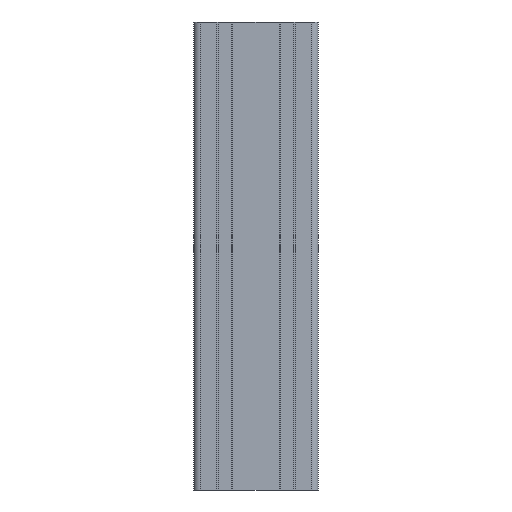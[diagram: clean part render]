
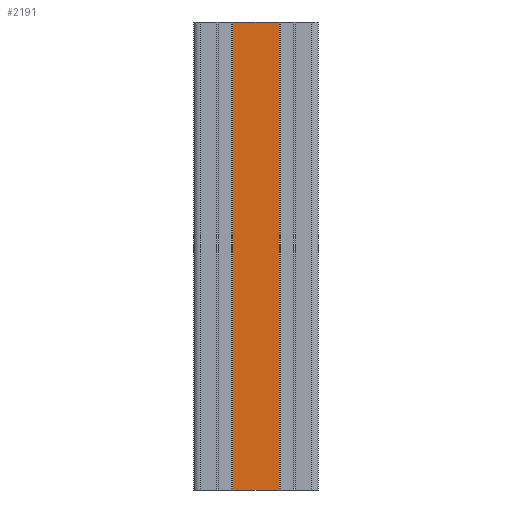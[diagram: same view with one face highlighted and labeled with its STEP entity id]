
A CAD part, front view. The second image highlights one B-rep face of the part: STEP entity #2191.
In plain terms, the highlighted planar face has unit normal (0, -1, 0).
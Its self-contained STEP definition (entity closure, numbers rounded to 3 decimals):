
#46 = CARTESIAN_POINT ( 'NONE',  ( -14.85, -20., 150. ) ) ;
#156 = CARTESIAN_POINT ( 'NONE',  ( -14.85, -20., 150. ) ) ;
#241 = EDGE_CURVE ( 'NONE', #6490, #1092, #1419, .T. ) ;
#333 = DIRECTION ( 'NONE',  ( 1., 0., 0. ) ) ;
#350 = CARTESIAN_POINT ( 'NONE',  ( 14.85, -20., 150. ) ) ;
#368 = VECTOR ( 'NONE', #5198, 1000. ) ;
#390 = DIRECTION ( 'NONE',  ( 0., 0., 1. ) ) ;
#424 = EDGE_CURVE ( 'NONE', #2061, #1517, #4390, .T. ) ;
#1027 = CARTESIAN_POINT ( 'NONE',  ( -14.85, -20., -150. ) ) ;
#1078 = DIRECTION ( 'NONE',  ( 0., 1., 0. ) ) ;
#1092 = VERTEX_POINT ( 'NONE', #3410 ) ;
#1419 = LINE ( 'NONE', #46, #2028 ) ;
#1517 = VERTEX_POINT ( 'NONE', #6430 ) ;
#1696 = LINE ( 'NONE', #1027, #4426 ) ;
#1748 = CARTESIAN_POINT ( 'NONE',  ( -14.85, -20., 150. ) ) ;
#2028 = VECTOR ( 'NONE', #5961, 1000. ) ;
#2061 = VERTEX_POINT ( 'NONE', #350 ) ;
#2191 = ADVANCED_FACE ( 'NONE', ( #4649 ), #3099, .F. ) ;
#2280 = AXIS2_PLACEMENT_3D ( 'NONE', #1748, #1078, #390 ) ;
#3045 = DIRECTION ( 'NONE',  ( 0., 0., -1. ) ) ;
#3099 = PLANE ( 'NONE',  #2280 ) ;
#3307 = ORIENTED_EDGE ( 'NONE', *, *, #3933, .T. ) ;
#3410 = CARTESIAN_POINT ( 'NONE',  ( -14.85, -20., -150. ) ) ;
#3715 = CARTESIAN_POINT ( 'NONE',  ( 14.85, -20., 150. ) ) ;
#3929 = ORIENTED_EDGE ( 'NONE', *, *, #6250, .F. ) ;
#3933 = EDGE_CURVE ( 'NONE', #1092, #1517, #1696, .T. ) ;
#4390 = LINE ( 'NONE', #3715, #6287 ) ;
#4426 = VECTOR ( 'NONE', #333, 1000. ) ;
#4578 = ORIENTED_EDGE ( 'NONE', *, *, #241, .T. ) ;
#4649 = FACE_OUTER_BOUND ( 'NONE', #5901, .T. ) ;
#5198 = DIRECTION ( 'NONE',  ( 1., 0., 0. ) ) ;
#5329 = ORIENTED_EDGE ( 'NONE', *, *, #424, .F. ) ;
#5862 = CARTESIAN_POINT ( 'NONE',  ( -14.85, -20., 150. ) ) ;
#5901 = EDGE_LOOP ( 'NONE', ( #3307, #5329, #3929, #4578 ) ) ;
#5961 = DIRECTION ( 'NONE',  ( 0., 0., -1. ) ) ;
#6250 = EDGE_CURVE ( 'NONE', #6490, #2061, #6523, .T. ) ;
#6287 = VECTOR ( 'NONE', #3045, 1000. ) ;
#6430 = CARTESIAN_POINT ( 'NONE',  ( 14.85, -20., -150. ) ) ;
#6490 = VERTEX_POINT ( 'NONE', #156 ) ;
#6523 = LINE ( 'NONE', #5862, #368 ) ;
